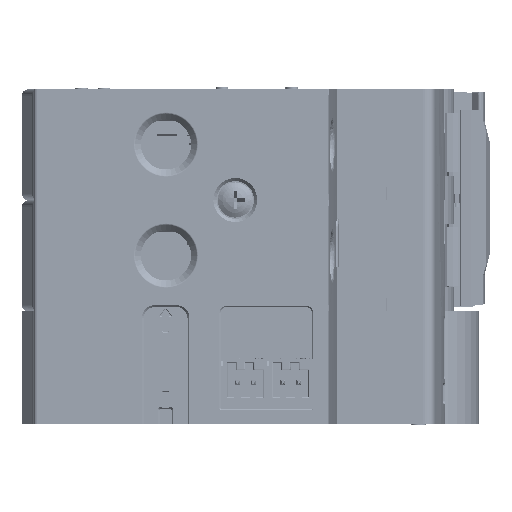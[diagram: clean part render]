
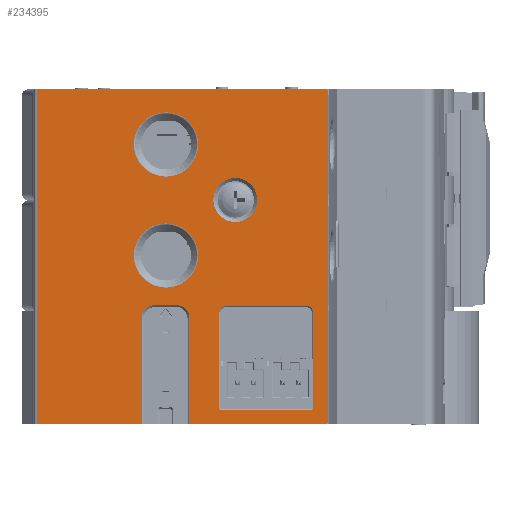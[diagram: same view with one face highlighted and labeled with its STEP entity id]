
A CAD part, left-side view. The second image highlights one B-rep face of the part: STEP entity #234395.
In plain terms, the highlighted planar face has unit normal (-1, 0, 0).
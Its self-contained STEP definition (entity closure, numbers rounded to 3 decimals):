
#54529=DIRECTION('',(0.,0.,-1.));
#54530=VECTOR('',#54529,16.849);
#54531=CARTESIAN_POINT('',(-18.5,-21.19,
-36.501));
#54532=LINE('',#54531,#54530);
#54533=CARTESIAN_POINT('',(-18.5,-19.09,-36.501));
#54534=DIRECTION('',(1.,0.,0.));
#54535=DIRECTION('',(0.,0.,1.));
#54536=AXIS2_PLACEMENT_3D('',#54533,#54534,#54535);
#54538=DIRECTION('',(0.,-1.,0.));
#54539=VECTOR('',#54538,3.4);
#54540=CARTESIAN_POINT('',(-18.5,-15.69,-34.401));
#54541=LINE('',#54540,#54539);
#54542=CARTESIAN_POINT('',(-18.5,-15.69,-36.501));
#54543=DIRECTION('',(1.,0.,0.));
#54544=DIRECTION('',(0.,1.,0.));
#54545=AXIS2_PLACEMENT_3D('',#54542,#54543,#54544);
#54547=DIRECTION('',(0.,0.,1.));
#54548=VECTOR('',#54547,16.849);
#54549=CARTESIAN_POINT('',(-18.5,-13.59,-53.35));
#54550=LINE('',#54549,#54548);
#54551=DIRECTION('',(0.,-1.,0.));
#54552=VECTOR('',#54551,16.69);
#54553=CARTESIAN_POINT('',(-18.5,3.1,-53.35));
#54554=LINE('',#54553,#54552);
#54555=DIRECTION('',(0.,0.,-1.));
#54556=VECTOR('',#54555,53.4);
#54557=CARTESIAN_POINT('',(-18.5,3.1,0.05));
#54558=LINE('',#54557,#54556);
#54559=DIRECTION('',(0.,1.,0.));
#54560=VECTOR('',#54559,45.9);
#54561=CARTESIAN_POINT('',(-18.5,-42.8,0.05));
#54562=LINE('',#54561,#54560);
#54563=CARTESIAN_POINT('',(-18.5,-42.8,-0.45));
#54564=DIRECTION('',(-1.,0.,0.));
#54565=DIRECTION('',(0.,-1.,0.));
#54566=AXIS2_PLACEMENT_3D('',#54563,#54564,#54565);
#54568=DIRECTION('',(0.,0.,1.));
#54569=VECTOR('',#54568,52.4);
#54570=CARTESIAN_POINT('',(-18.5,-43.3,-52.85));
#54571=LINE('',#54570,#54569);
#54572=CARTESIAN_POINT('',(-18.5,-42.8,-52.85));
#54573=DIRECTION('',(-1.,0.,0.));
#54574=DIRECTION('',(0.,0.,-1.));
#54575=AXIS2_PLACEMENT_3D('',#54572,#54573,#54574);
#54577=DIRECTION('',(0.,-1.,0.));
#54578=VECTOR('',#54577,21.61);
#54579=CARTESIAN_POINT('',(-18.5,-21.19,-53.35));
#54580=LINE('',#54579,#54578);
#54581=CARTESIAN_POINT('',(-18.5,-28.5,-17.65));
#54582=DIRECTION('',(1.,0.,0.));
#54583=DIRECTION('',(0.,0.,1.));
#54584=AXIS2_PLACEMENT_3D('',#54581,#54582,#54583);
#54586=CARTESIAN_POINT('',(-18.5,-28.5,-17.65));
#54587=DIRECTION('',(1.,0.,0.));
#54588=DIRECTION('',(0.,0.,-1.));
#54589=AXIS2_PLACEMENT_3D('',#54586,#54587,#54588);
#54591=CARTESIAN_POINT('',(-18.5,-17.45,-26.5));
#54592=DIRECTION('',(1.,0.,0.));
#54593=DIRECTION('',(0.,0.,1.));
#54594=AXIS2_PLACEMENT_3D('',#54591,#54592,#54593);
#54596=CARTESIAN_POINT('',(-18.5,-17.45,-26.5));
#54597=DIRECTION('',(1.,0.,0.));
#54598=DIRECTION('',(0.,0.,-1.));
#54599=AXIS2_PLACEMENT_3D('',#54596,#54597,#54598);
#54601=CARTESIAN_POINT('',(-18.5,-17.45,-8.8));
#54602=DIRECTION('',(1.,0.,0.));
#54603=DIRECTION('',(0.,0.,1.));
#54604=AXIS2_PLACEMENT_3D('',#54601,#54602,#54603);
#54606=CARTESIAN_POINT('',(-18.5,-17.45,-8.8));
#54607=DIRECTION('',(1.,0.,0.));
#54608=DIRECTION('',(0.,0.,-1.));
#54609=AXIS2_PLACEMENT_3D('',#54606,#54607,#54608);
#54611=DIRECTION('',(0.,0.,1.));
#54612=VECTOR('',#54611,15.149);
#54613=CARTESIAN_POINT('',(-18.5,-40.95,
-50.85));
#54614=LINE('',#54613,#54612);
#54615=CARTESIAN_POINT('',(-18.5,-39.75,-35.701));
#54616=DIRECTION('',(-1.,0.,0.));
#54617=DIRECTION('',(0.,-1.,0.));
#54618=AXIS2_PLACEMENT_3D('',#54615,#54616,#54617);
#54620=DIRECTION('',(0.,1.,0.));
#54621=VECTOR('',#54620,12.6);
#54622=CARTESIAN_POINT('',(-18.5,-39.75,
-34.501));
#54623=LINE('',#54622,#54621);
#54624=CARTESIAN_POINT('',(-18.5,-27.15,-35.701));
#54625=DIRECTION('',(-1.,0.,0.));
#54626=DIRECTION('',(0.,0.,1.));
#54627=AXIS2_PLACEMENT_3D('',#54624,#54625,#54626);
#54629=DIRECTION('',(0.,0.,-1.));
#54630=VECTOR('',#54629,15.149);
#54631=CARTESIAN_POINT('',(-18.5,-25.95,
-35.701));
#54632=LINE('',#54631,#54630);
#54633=CARTESIAN_POINT('',(-18.5,-26.25,-50.85));
#54634=DIRECTION('',(-1.,0.,0.));
#54635=DIRECTION('',(0.,1.,0.));
#54636=AXIS2_PLACEMENT_3D('',#54633,#54634,#54635);
#54638=DIRECTION('',(0.,-1.,0.));
#54639=VECTOR('',#54638,14.4);
#54640=CARTESIAN_POINT('',(-18.5,-26.25,
-51.15));
#54641=LINE('',#54640,#54639);
#54642=CARTESIAN_POINT('',(-18.5,-40.65,-50.85));
#54643=DIRECTION('',(-1.,0.,0.));
#54644=DIRECTION('',(0.,0.,-1.));
#54645=AXIS2_PLACEMENT_3D('',#54642,#54643,#54644);
#166777=CARTESIAN_POINT('',(-18.5,3.1,0.05));
#166778=CARTESIAN_POINT('',(-18.5,3.1,-53.35));
#166779=VERTEX_POINT('',#166777);
#166780=VERTEX_POINT('',#166778);
#166793=CARTESIAN_POINT('',(-18.5,-43.3,-52.85));
#166794=CARTESIAN_POINT('',(-18.5,-43.3,-0.45));
#166795=VERTEX_POINT('',#166793);
#166796=VERTEX_POINT('',#166794);
#166949=CARTESIAN_POINT('',(-18.5,-28.5,-14.15));
#166950=CARTESIAN_POINT('',(-18.5,-28.5,-21.15));
#166951=VERTEX_POINT('',#166949);
#166952=VERTEX_POINT('',#166950);
#166957=CARTESIAN_POINT('',(-18.5,-17.45,-21.376));
#166958=CARTESIAN_POINT('',(-18.5,-17.45,-31.624));
#166959=VERTEX_POINT('',#166957);
#166960=VERTEX_POINT('',#166958);
#166965=CARTESIAN_POINT('',(-18.5,-17.45,-3.676));
#166966=CARTESIAN_POINT('',(-18.5,-17.45,-13.924));
#166967=VERTEX_POINT('',#166965);
#166968=VERTEX_POINT('',#166966);
#166973=CARTESIAN_POINT('',(-18.5,-42.8,-53.35));
#166974=VERTEX_POINT('',#166973);
#166975=CARTESIAN_POINT('',(-18.5,-42.8,0.05));
#166976=VERTEX_POINT('',#166975);
#166981=CARTESIAN_POINT('',(-18.5,-21.19,-53.35));
#166983=VERTEX_POINT('',#166981);
#166987=CARTESIAN_POINT('',(-18.5,-21.19,
-36.501));
#166988=VERTEX_POINT('',#166987);
#166989=CARTESIAN_POINT('',(-18.5,-19.09,-34.401));
#166990=VERTEX_POINT('',#166989);
#166993=CARTESIAN_POINT('',(-18.5,-15.69,-34.401));
#166994=VERTEX_POINT('',#166993);
#166998=CARTESIAN_POINT('',(-18.5,-13.59,-53.35));
#167000=VERTEX_POINT('',#166998);
#167001=CARTESIAN_POINT('',(-18.5,-13.59,-36.501));
#167002=VERTEX_POINT('',#167001);
#167029=CARTESIAN_POINT('',(-18.5,-40.95,
-50.85));
#167030=CARTESIAN_POINT('',(-18.5,-40.95,
-35.701));
#167031=VERTEX_POINT('',#167029);
#167032=VERTEX_POINT('',#167030);
#167041=CARTESIAN_POINT('',(-18.5,-25.95,-50.85));
#167042=CARTESIAN_POINT('',(-18.5,-26.25,-51.15));
#167043=VERTEX_POINT('',#167041);
#167044=VERTEX_POINT('',#167042);
#167045=CARTESIAN_POINT('',(-18.5,-40.65,
-51.15));
#167046=VERTEX_POINT('',#167045);
#167049=CARTESIAN_POINT('',(-18.5,-25.95,
-35.701));
#167050=VERTEX_POINT('',#167049);
#167929=CARTESIAN_POINT('',(-18.5,-39.75,-34.501));
#167930=VERTEX_POINT('',#167929);
#167933=CARTESIAN_POINT('',(-18.5,-27.15,
-34.501));
#167934=VERTEX_POINT('',#167933);
#234330=CARTESIAN_POINT('',(-18.5,-23.1,-8.8));
#234331=DIRECTION('',(-1.,0.,0.));
#234332=DIRECTION('',(0.,0.,1.));
#234333=AXIS2_PLACEMENT_3D('',#234330,#234331,#234332);
#234334=PLANE('',#234333);
#234336=ORIENTED_EDGE('',*,*,#234335,.F.);
#234338=ORIENTED_EDGE('',*,*,#234337,.F.);
#234340=ORIENTED_EDGE('',*,*,#234339,.F.);
#234342=ORIENTED_EDGE('',*,*,#234341,.F.);
#234344=ORIENTED_EDGE('',*,*,#234343,.F.);
#234346=ORIENTED_EDGE('',*,*,#234345,.F.);
#234348=ORIENTED_EDGE('',*,*,#234347,.F.);
#234350=ORIENTED_EDGE('',*,*,#234349,.F.);
#234352=ORIENTED_EDGE('',*,*,#234351,.F.);
#234354=ORIENTED_EDGE('',*,*,#234353,.F.);
#234356=ORIENTED_EDGE('',*,*,#234355,.F.);
#234358=ORIENTED_EDGE('',*,*,#234357,.F.);
#234359=EDGE_LOOP('',(#234336,#234338,#234340,#234342,#234344,#234346,#234348,
#234350,#234352,#234354,#234356,#234358));
#234360=FACE_OUTER_BOUND('',#234359,.F.);
#234362=ORIENTED_EDGE('',*,*,#234361,.F.);
#234364=ORIENTED_EDGE('',*,*,#234363,.F.);
#234365=EDGE_LOOP('',(#234362,#234364));
#234366=FACE_BOUND('',#234365,.F.);
#234368=ORIENTED_EDGE('',*,*,#234367,.F.);
#234370=ORIENTED_EDGE('',*,*,#234369,.F.);
#234371=EDGE_LOOP('',(#234368,#234370));
#234372=FACE_BOUND('',#234371,.F.);
#234374=ORIENTED_EDGE('',*,*,#234373,.F.);
#234376=ORIENTED_EDGE('',*,*,#234375,.F.);
#234377=EDGE_LOOP('',(#234374,#234376));
#234378=FACE_BOUND('',#234377,.F.);
#234379=ORIENTED_EDGE('',*,*,#234011,.T.);
#234381=ORIENTED_EDGE('',*,*,#234380,.T.);
#234383=ORIENTED_EDGE('',*,*,#234382,.T.);
#234385=ORIENTED_EDGE('',*,*,#234384,.T.);
#234387=ORIENTED_EDGE('',*,*,#234386,.T.);
#234389=ORIENTED_EDGE('',*,*,#234388,.T.);
#234391=ORIENTED_EDGE('',*,*,#234390,.T.);
#234392=ORIENTED_EDGE('',*,*,#234323,.T.);
#234393=EDGE_LOOP('',(#234379,#234381,#234383,#234385,#234387,#234389,#234391,
#234392));
#234394=FACE_BOUND('',#234393,.F.);
#234395=ADVANCED_FACE('',(#234360,#234366,#234372,#234378,#234394),#234334,.T.);
#54537=CIRCLE('',#54536,2.1);
#54546=CIRCLE('',#54545,2.1);
#54567=CIRCLE('',#54566,0.5);
#54576=CIRCLE('',#54575,0.5);
#54585=CIRCLE('',#54584,3.5);
#54590=CIRCLE('',#54589,3.5);
#54595=CIRCLE('',#54594,5.124);
#54600=CIRCLE('',#54599,5.124);
#54605=CIRCLE('',#54604,5.124);
#54610=CIRCLE('',#54609,5.124);
#54619=CIRCLE('',#54618,1.2);
#54628=CIRCLE('',#54627,1.2);
#54637=CIRCLE('',#54636,0.3);
#54646=CIRCLE('',#54645,0.3);
#234011=EDGE_CURVE('',#167031,#167032,#54614,.T.);
#234323=EDGE_CURVE('',#167046,#167031,#54646,.T.);
#234335=EDGE_CURVE('',#166988,#166983,#54532,.T.);
#234337=EDGE_CURVE('',#166990,#166988,#54537,.T.);
#234339=EDGE_CURVE('',#166994,#166990,#54541,.T.);
#234341=EDGE_CURVE('',#167002,#166994,#54546,.T.);
#234343=EDGE_CURVE('',#167000,#167002,#54550,.T.);
#234345=EDGE_CURVE('',#166780,#167000,#54554,.T.);
#234347=EDGE_CURVE('',#166779,#166780,#54558,.T.);
#234349=EDGE_CURVE('',#166976,#166779,#54562,.T.);
#234351=EDGE_CURVE('',#166796,#166976,#54567,.T.);
#234353=EDGE_CURVE('',#166795,#166796,#54571,.T.);
#234355=EDGE_CURVE('',#166974,#166795,#54576,.T.);
#234357=EDGE_CURVE('',#166983,#166974,#54580,.T.);
#234361=EDGE_CURVE('',#166951,#166952,#54585,.T.);
#234363=EDGE_CURVE('',#166952,#166951,#54590,.T.);
#234367=EDGE_CURVE('',#166959,#166960,#54595,.T.);
#234369=EDGE_CURVE('',#166960,#166959,#54600,.T.);
#234373=EDGE_CURVE('',#166967,#166968,#54605,.T.);
#234375=EDGE_CURVE('',#166968,#166967,#54610,.T.);
#234380=EDGE_CURVE('',#167032,#167930,#54619,.T.);
#234382=EDGE_CURVE('',#167930,#167934,#54623,.T.);
#234384=EDGE_CURVE('',#167934,#167050,#54628,.T.);
#234386=EDGE_CURVE('',#167050,#167043,#54632,.T.);
#234388=EDGE_CURVE('',#167043,#167044,#54637,.T.);
#234390=EDGE_CURVE('',#167044,#167046,#54641,.T.);
